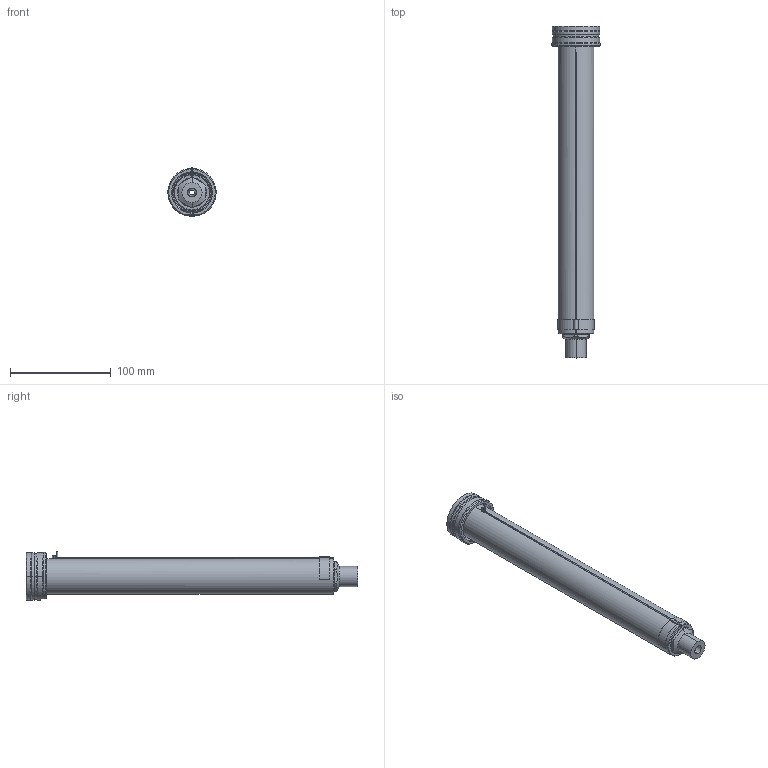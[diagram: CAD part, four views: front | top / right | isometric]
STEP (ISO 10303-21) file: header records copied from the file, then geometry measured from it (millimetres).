
FILE_DESCRIPTION((''),'2;1');
FILE_NAME('EO16_VG-ST_ESG_300_SW','2024-02-19T12:59:14',('sundharh'),(''),'CREO PARAMETRIC BY PTC INC, 2023154','CREO PARAMETRIC BY PTC INC, 2023154','');
FILE_SCHEMA(('CONFIG_CONTROL_DESIGN'));
Length unit declared in the file: millimetre
Products named in the file (1): EO16_VG-ST_ESG_300_SW
Bounding box: 47.97 x 330 x 48 mm (x, y, z)
Volume: 262003.7 mm3; surface area: 60456.3 mm2
Topology: 1 solids, 1 shells, 168 faces, 418 edges, 255 vertices
Faces by surface type: cylinder 64, plane 44, cone 35, torus 14, bspline 9, sphere 2
Entity records: 5882 total; most frequent: CARTESIAN_POINT 1818, DIRECTION 900, ORIENTED_EDGE 820, EDGE_CURVE 410, AXIS2_PLACEMENT_3D 371, VERTEX_POINT 255, CIRCLE 212, EDGE_LOOP 183
